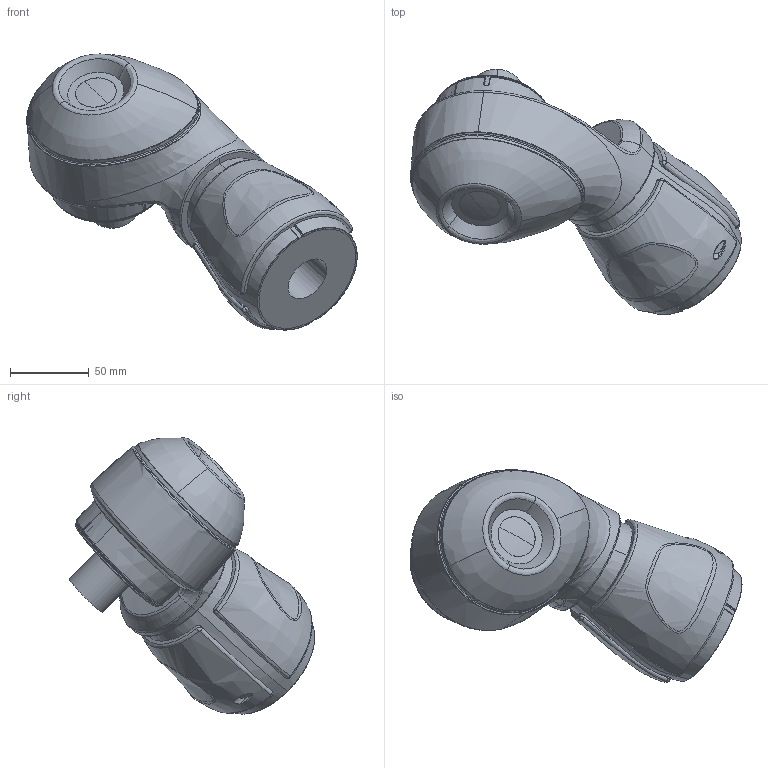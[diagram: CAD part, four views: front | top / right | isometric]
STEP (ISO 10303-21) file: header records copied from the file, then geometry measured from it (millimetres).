
FILE_DESCRIPTION (( 'STEP AP214' ), '1' );
FILE_NAME ('Link4_L3.0.STEP', '2015-02-09T07:40:18', ( 'ABB' ), ( 'ABB' ), 'SwSTEP 2.0', 'SolidWorks 2012', '' );
FILE_SCHEMA (( 'AUTOMOTIVE_DESIGN' ));
Length unit declared in the file: millimetre
Products named in the file (1): Link4_L3.0
Bounding box: 210.15 x 155.94 x 175.53 mm (x, y, z)
Volume: 1181120.6 mm3; surface area: 82890.4 mm2
Topology: 1 solids, 1 shells, 349 faces, 909 edges, 559 vertices
Faces by surface type: bspline 255, cone 43, plane 38, cylinder 13
Entity records: 79898 total; most frequent: CARTESIAN_POINT 69832, ORIENTED_EDGE 1794, EDGE_CURVE 897, B_SPLINE_CURVE_WITH_KNOTS 607, VERTEX_POINT 559, DIRECTION 552, EDGE_LOOP 358, UNCERTAINTY_MEASURE_WITH_UNIT 352
